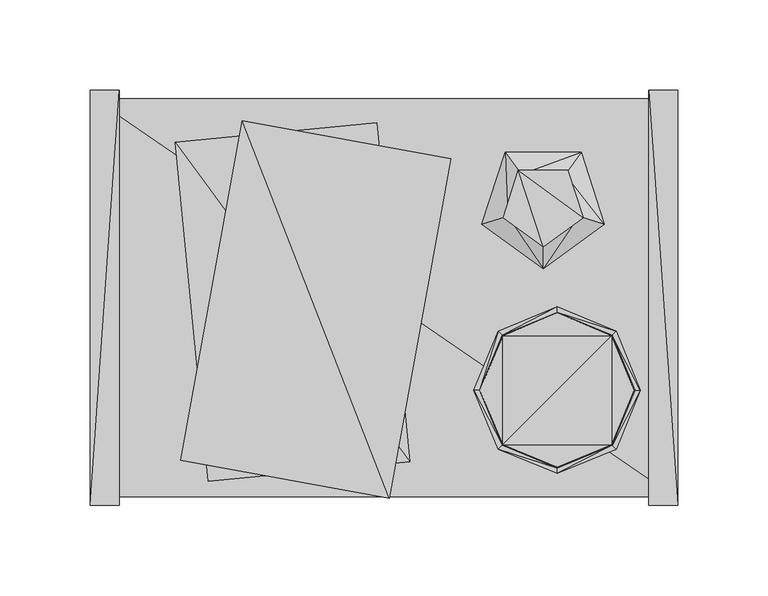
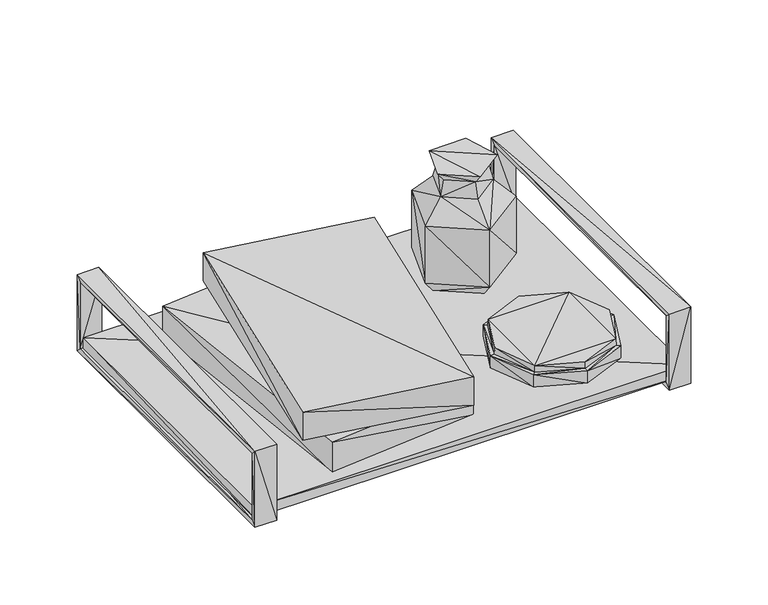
"""IFC4 building model written with IfcOpenShell, lengths in millimetres: geographic element geometry, Enscape AssetDefinition - Decoration Collection 02 : Enscape AssetDefinition - Decoration Collection 02."""

from ifc_helpers import new_model, si_unit, origin, place, context, project, spatial, faceted_brep, source, transform, mapped, element, save


def geographic_element_de3b21ac(model_context):
    return source(origin(), model_context, "Body", "Brep", [
        faceted_brep([(-160.9349996, -110.4340032, 4.1720001), (-160.9349996, 110.4340032, 4.1720001), (160.9349996, -110.4340032, 4.1720001), (-160.9349996, -110.4340032, 12.7579998), (160.9349996, -110.4340032, 12.7579998), (-160.9349996, 110.4340032, 12.7579998), (160.9349996, 110.4340032, 4.1720001), (160.9349996, 110.4340032, 12.7579998)], [[[0, 1, 2]], [[3, 4, 5]], [[2, 6, 4]], [[1, 0, 5]], [[6, 1, 7]], [[0, 2, 3]], [[2, 1, 6]], [[5, 4, 7]], [[4, 6, 7]], [[5, 0, 3]], [[7, 1, 5]], [[3, 2, 4]]]),
        faceted_brep([(146.6729939, -111.3820001, 3.9009999), (162.8849953, -111.3820001, 3.9009999), (146.6729939, 111.3820001, 3.9009999), (162.8849953, -111.3820001, 56.7010008), (162.8849953, -115.0619984, 0.221), (162.8849953, 111.3820001, 3.9009999), (146.6729939, 111.3820001, 56.7010008), (146.6729939, 115.0619984, 0.221), (162.8849953, 115.0619984, 0.221), (162.8849953, 111.3820001, 56.7010008), (162.8849953, 115.0619984, 60.380999), (146.6729939, 115.0619984, 60.380999), (146.6729939, -115.0619984, 0.221), (146.6729939, -115.0619984, 60.380999), (162.8849953, -115.0619984, 60.380999), (146.6729939, -111.3820001, 56.7010008)], [[[0, 1, 2]], [[1, 0, 3]], [[1, 3, 4]], [[2, 1, 5]], [[4, 5, 1]], [[2, 5, 6]], [[2, 6, 7]], [[7, 0, 2]], [[8, 5, 4]], [[9, 5, 10]], [[6, 5, 9]], [[10, 5, 8]], [[7, 11, 8]], [[4, 7, 8]], [[8, 11, 10]], [[12, 7, 4]], [[12, 0, 7]], [[7, 6, 11]], [[13, 14, 11]], [[6, 15, 11]], [[11, 14, 10]], [[11, 15, 13]], [[14, 9, 10]], [[3, 9, 14]], [[3, 6, 9]], [[4, 14, 12]], [[12, 14, 13]], [[4, 3, 14]], [[13, 0, 12]], [[15, 0, 13]], [[15, 6, 3]], [[3, 0, 15]]]),
        faceted_brep([(-146.6729939, -111.3820001, 3.9009999), (-146.6729939, 111.3820001, 3.9009999), (-162.8849953, -111.3820001, 3.9009999), (-146.6729939, 111.3820001, 56.7010008), (-162.8849953, 111.3820001, 3.9009999), (-146.6729939, -115.0619984, 0.221), (-146.6729939, 115.0619984, 0.221), (-162.8849953, 115.0619984, 0.221), (-162.8849953, 111.3820001, 56.7010008), (-162.8849953, 115.0619984, 60.380999), (-146.6729939, 115.0619984, 60.380999), (-162.8849953, -115.0619984, 0.221), (-146.6729939, -115.0619984, 60.380999), (-162.8849953, -115.0619984, 60.380999), (-146.6729939, -111.3820001, 56.7010008), (-162.8849953, -111.3820001, 56.7010008)], [[[0, 1, 2]], [[1, 3, 4]], [[0, 5, 1]], [[1, 6, 3]], [[2, 1, 4]], [[1, 5, 6]], [[4, 7, 2]], [[8, 9, 4]], [[4, 3, 8]], [[4, 9, 7]], [[6, 7, 10]], [[6, 11, 7]], [[10, 7, 9]], [[2, 7, 11]], [[5, 11, 6]], [[3, 6, 10]], [[12, 10, 13]], [[3, 10, 14]], [[13, 10, 9]], [[14, 10, 12]], [[8, 13, 9]], [[15, 13, 8]], [[3, 15, 8]], [[11, 5, 13]], [[13, 5, 12]], [[15, 11, 13]], [[2, 11, 15]], [[2, 15, 0]], [[14, 15, 3]], [[0, 15, 14]], [[14, 12, 0]], [[0, 12, 5]]]),
        faceted_brep([(96.0310027, -5.0960002, 12.7579998), (63.3940026, -18.6149999, 12.7579998), (96.0310027, -5.0960002, 22.6319991), (49.8749986, -51.252, 12.7579998), (63.3940026, -18.6149999, 22.6319991), (63.3940026, -83.8899985, 12.7579998), (128.6689937, -18.6149999, 12.7579998), (128.6689937, -18.6149999, 22.6319991), (142.1879977, -51.252, 12.7579998), (142.1879977, -51.252, 22.6319991), (128.6689937, -83.8899985, 12.7579998), (126.5600026, -20.7240004, 22.6319991), (96.0310027, -8.0789998, 22.6319991), (139.2049938, -51.252, 22.6319991), (138.8500035, -51.252, 27.7510006), (126.3090074, -20.9749993, 27.7510006), (65.5030012, -20.7240004, 22.6319991), (96.0310027, -8.4340004, 27.7510006), (65.7539964, -81.5289989, 27.7510006), (126.3090074, -81.5289989, 27.7510006), (65.7539964, -20.9749993, 27.7510006), (126.5600026, -81.7809999, 22.6319991), (96.0310027, -94.0710008, 27.7510006), (128.6689937, -83.8899985, 22.6319991), (96.0310027, -97.4090025, 22.6319991), (96.0310027, -94.4259986, 22.6319991), (63.3940026, -83.8899985, 22.6319991), (96.0310027, -97.4090025, 12.7579998), (65.5030012, -81.7809999, 22.6319991), (49.8749986, -51.252, 22.6319991), (52.8579988, -51.252, 22.6319991), (53.2130003, -51.252, 27.7510006)], [[[0, 1, 2]], [[1, 3, 4]], [[2, 1, 4]], [[1, 5, 3]], [[6, 1, 0]], [[6, 5, 1]], [[6, 0, 7]], [[7, 0, 2]], [[8, 6, 9]], [[5, 6, 10]], [[9, 6, 7]], [[10, 6, 8]], [[7, 11, 9]], [[2, 12, 7]], [[7, 12, 11]], [[13, 11, 14]], [[9, 11, 13]], [[14, 11, 15]], [[12, 15, 11]], [[12, 2, 16]], [[12, 16, 17]], [[17, 15, 12]], [[15, 18, 19]], [[20, 15, 17]], [[15, 19, 14]], [[18, 15, 20]], [[14, 19, 13]], [[21, 9, 13]], [[13, 19, 21]], [[19, 22, 21]], [[19, 18, 22]], [[23, 9, 21]], [[23, 21, 24]], [[21, 22, 25]], [[24, 21, 25]], [[23, 8, 9]], [[10, 8, 23]], [[24, 10, 23]], [[24, 25, 26]], [[27, 10, 24]], [[26, 27, 24]], [[22, 18, 25]], [[26, 25, 28]], [[25, 18, 28]], [[5, 27, 26]], [[28, 29, 26]], [[29, 5, 26]], [[5, 10, 27]], [[3, 5, 29]], [[30, 29, 28]], [[29, 30, 4]], [[4, 3, 29]], [[30, 28, 31]], [[31, 28, 18]], [[18, 20, 31]], [[20, 30, 31]], [[16, 30, 20]], [[4, 30, 16]], [[16, 2, 4]], [[17, 16, 20]]]),
        faceted_brep([(61.8680008, 43.1049988, 12.7579998), (88.244997, 51.6760014, 12.7579998), (88.244997, 23.9419993, 12.7579998), (114.6209985, 43.1049988, 12.7579998), (104.5470014, 74.1129965, 12.7579998), (71.943, 74.1129965, 12.7579998), (88.244997, 15.9600005, 22.5140005), (67.2520027, 80.5699974, 22.5140005), (54.2769991, 40.6389982, 22.5140005), (122.2129986, 40.6389982, 22.5140005), (109.2379987, 80.5699974, 22.5140005), (54.2769991, 40.6389982, 67.5700009), (88.244997, 15.9600005, 67.5700009), (67.2520027, 80.5699974, 67.5700009), (109.2379987, 80.5699974, 67.5700009), (122.2129986, 40.6389982, 67.5700009), (68.6020032, 45.2929996, 83.1570029), (88.244997, 31.0219992, 83.1570029), (107.8879982, 45.2929996, 83.1570029), (76.1049986, 68.3849975, 83.1570029), (100.3850028, 68.3849975, 83.1570029), (88.244997, 33.9570008, 95.1519981), (105.0970033, 46.1999997, 95.1519981), (71.3929981, 46.1999997, 95.1519981), (66.0080016, 44.4499999, 102.3669988), (88.244997, 28.2940008, 102.3669988), (98.6599997, 66.0109967, 95.1519981), (110.4819998, 44.4499999, 102.3669988), (77.8300017, 66.0109967, 95.1519981), (101.9880027, 70.5920011, 102.3669988), (74.5019987, 70.5920011, 102.3669988)], [[[0, 1, 2]], [[2, 1, 3]], [[3, 1, 4]], [[4, 1, 5]], [[0, 5, 1]], [[2, 3, 6]], [[6, 0, 2]], [[5, 0, 7]], [[8, 0, 6]], [[7, 0, 8]], [[7, 4, 5]], [[3, 4, 9]], [[10, 4, 7]], [[9, 4, 10]], [[6, 3, 9]], [[8, 6, 11]], [[6, 9, 12]], [[11, 6, 12]], [[7, 8, 13]], [[13, 8, 11]], [[10, 7, 14]], [[14, 7, 13]], [[9, 10, 15]], [[15, 10, 14]], [[12, 9, 15]], [[11, 12, 16]], [[17, 12, 18]], [[16, 12, 17]], [[18, 12, 15]], [[16, 13, 11]], [[19, 13, 16]], [[19, 14, 13]], [[20, 14, 19]], [[20, 15, 14]], [[18, 15, 20]], [[17, 18, 21]], [[18, 20, 22]], [[21, 18, 22]], [[21, 16, 17]], [[23, 21, 24]], [[23, 16, 21]], [[21, 22, 25]], [[24, 21, 25]], [[22, 26, 27]], [[22, 20, 26]], [[25, 22, 27]], [[20, 19, 26]], [[26, 28, 29]], [[26, 19, 28]], [[27, 26, 29]], [[30, 27, 29]], [[30, 25, 27]], [[25, 30, 24]], [[30, 23, 24]], [[28, 23, 30]], [[28, 16, 23]], [[19, 16, 28]], [[29, 28, 30]]]),
        faceted_brep([(2.8299999, -111.0690013, 36.3279991), (37.0730013, 77.0369992, 36.3279991), (2.8299999, -111.0690013, 58.6690009), (-112.8100008, -90.0179967, 58.6690009), (-78.5679966, 98.0880037, 58.6690009), (-112.8100008, -90.0179967, 36.3279991), (37.0730013, 77.0369992, 58.6690009), (-78.5679966, 98.0880037, 36.3279991)], [[[0, 1, 2]], [[3, 4, 5]], [[2, 3, 0]], [[4, 6, 7]], [[0, 5, 1]], [[6, 4, 2]], [[2, 1, 6]], [[5, 4, 7]], [[0, 3, 5]], [[7, 6, 1]], [[1, 5, 7]], [[2, 4, 3]]]),
        faceted_brep([(14.2660001, -90.9140036, 36.3910012), (-97.3759964, -101.7920002, 36.3910012), (14.2660001, -90.9140036, 12.4500003), (-4.0480001, 97.0359966, 12.4500003), (-115.6900004, 86.1570016, 36.3910012), (-97.3759964, -101.7920002, 12.4500003), (-4.0480001, 97.0359966, 36.3910012), (-115.6900004, 86.1570016, 12.4500003)], [[[0, 1, 2]], [[2, 3, 0]], [[1, 4, 5]], [[4, 6, 7]], [[2, 5, 3]], [[1, 0, 4]], [[2, 1, 5]], [[0, 3, 6]], [[5, 4, 7]], [[7, 6, 3]], [[3, 5, 7]], [[4, 0, 6]]]),
    ])


if __name__ == "__main__":
    model = new_model("IFC4")
    model_context = context("Model", 3, world=origin())
    ifc_project = project(units=[si_unit("LENGTHUNIT", "METRE", prefix="MILLI")], contexts=[model_context])
    site = spatial("IfcSite", under=ifc_project)
    building = spatial("IfcBuilding", under=site)
    placement = place(None, origin())
    geographic_element_shape = geographic_element_de3b21ac(model_context)
    element("IfcGeographicElement", 1, ObjectType="Enscape AssetDefinition - Decoration Collection 02 : Enscape AssetDefinition - Decoration Collection 02", at=placement, inside=building, context=model_context, shape_type="MappedRepresentation", body=[
        mapped(geographic_element_shape, transform((0.0, 0.0, 0.0), x_axis=(1.0, 0.0, 0.0), y_axis=(0.0, 1.0, 0.0), z_axis=(0.0, 0.0, 1.0))),
    ])
    save(model, "model.ifc")
